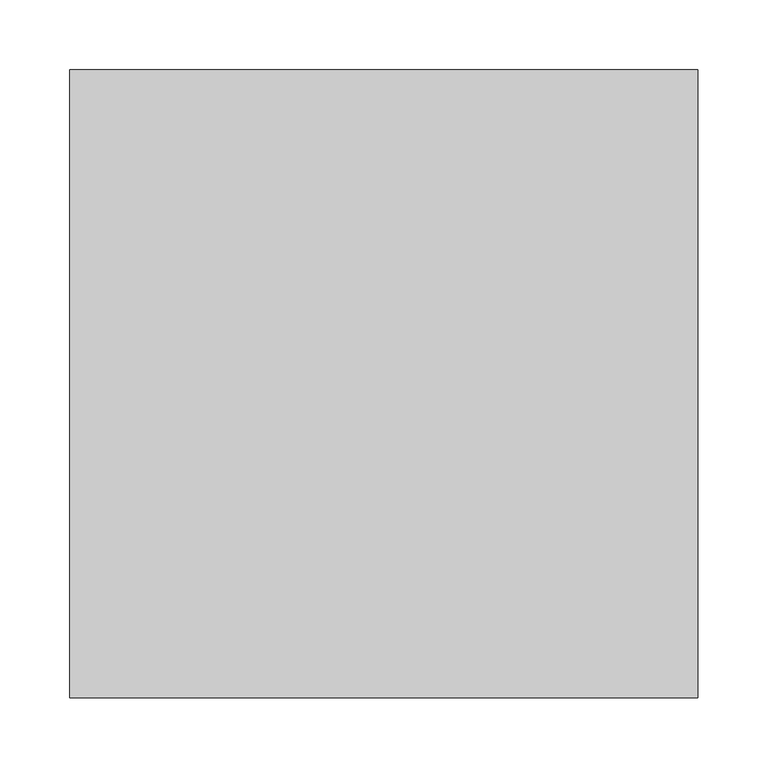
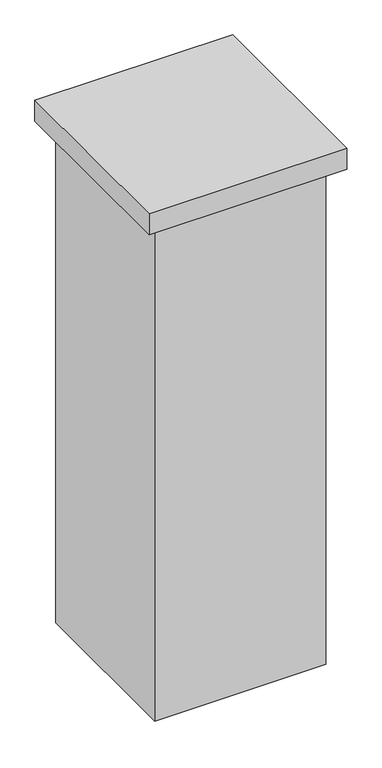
"""IFC4 building model written with IfcOpenShell, lengths in millimetres: proxy geometry, Busto de Artigas : Busto de Artigas."""

import ifcopenshell
import ifcopenshell.guid

model = None  # the IFC model being written
_history = None  # IfcOwnerHistory: only IFC2X3 demands one
_inside = {}  # id of a spatial element -> (the spatial element, [elements in it])
_under = {}  # id of a project, library or spatial element -> (it, [spatial elements below it])
_declared = {}  # id of a project -> (the project, [libraries it declares])
_typed = {}  # id of a type object -> (the type object, [elements of that type])
_made_of = {}  # id of a material, layer set ... -> (it, [elements and type objects made of it])


def new_model(schema):
    """Start an empty IFC model of exactly this schema.

    Asked for "IFC4X3", IfcOpenShell would pick the latest addendum, in which some entities
    have other attributes; the version numbers below select the first issue.
    IFC2X3 requires an IfcOwnerHistory on every rooted entity: one is made here for all.
    """
    global model, _history
    if schema == "IFC4X3":
        model = ifcopenshell.file(schema_version=(4, 3, 0, 0))
    else:
        model = ifcopenshell.file(schema=schema)
    _inside.clear()
    _under.clear()
    _declared.clear()
    _typed.clear()
    _made_of.clear()
    _history = None
    if model.schema == "IFC2X3":
        org = make("IfcOrganization", Name="unknown")
        user = make(
            "IfcPersonAndOrganization",
            ThePerson=make("IfcPerson", FamilyName="unknown"),
            TheOrganization=org,
        )
        app = make(
            "IfcApplication",
            ApplicationDeveloper=org,
            Version="unknown",
            ApplicationFullName="unknown",
            ApplicationIdentifier="unknown",
        )
        _history = make(
            "IfcOwnerHistory",
            OwningUser=user,
            OwningApplication=app,
            ChangeAction="ADDED",
            CreationDate=0,
        )
    return model


def make(cls, **values):
    """One entity of the class cls with the attributes given. An attribute that is None is left unset."""
    return model.create_entity(
        cls, **{name: value for name, value in values.items() if value is not None}
    )


def rooted(cls, **values):
    """An entity with a GlobalId (a new one), such as an element, a storey or a relation."""
    return make(cls, GlobalId=ifcopenshell.guid.new(), OwnerHistory=_history, **values)


def si_unit(unit_type, name, prefix=None):
    """IfcSIUnit, for example si_unit("LENGTHUNIT", "METRE", prefix="MILLI")."""
    return make("IfcSIUnit", UnitType=unit_type, Prefix=prefix, Name=name)


def assignment(units):
    """IfcUnitAssignment: the units of a project."""
    return None if units is None else make("IfcUnitAssignment", Units=units)


def point(xyz):
    """IfcCartesianPoint."""
    return None if xyz is None else make("IfcCartesianPoint", Coordinates=xyz)


def direction(xyz):
    """IfcDirection."""
    return None if xyz is None else make("IfcDirection", DirectionRatios=xyz)


def frame(location, z_axis=None, x_axis=None):
    """IfcAxis2Placement3D, a coordinate frame: its origin and axes. An axis left out is left unset."""
    return make(
        "IfcAxis2Placement3D",
        Location=point(location),
        Axis=direction(z_axis),
        RefDirection=direction(x_axis),
    )


def origin():
    """The frame at (0, 0, 0) with its axes left unset."""
    return frame((0.0, 0.0, 0.0))


def place(relative_to, where):
    """IfcLocalPlacement: puts the frame where relative to a parent placement (None: the world)."""
    return make(
        "IfcLocalPlacement", PlacementRelTo=relative_to, RelativePlacement=where
    )


def context(
    kind, dimensions, precision=None, world=None, true_north=None, identifier=None
):
    """IfcGeometricRepresentationContext, for example the 3D "Model" context."""
    return make(
        "IfcGeometricRepresentationContext",
        ContextIdentifier=identifier,
        ContextType=kind,
        CoordinateSpaceDimension=dimensions,
        Precision=precision,
        WorldCoordinateSystem=world,
        TrueNorth=true_north,
    )


def project(units=None, contexts=None):
    """IfcProject with its units and contexts."""
    return rooted(
        "IfcProject",
        Name="project",
        RepresentationContexts=contexts,
        UnitsInContext=assignment(units),
    )


def spatial(cls, under=None, at=None, **own):
    """A site, building, storey or space (cls), placed at a placement, below another one or the project."""
    s = rooted(cls, ObjectPlacement=at, **own)
    if under is not None:
        _under.setdefault(under.id(), (under, []))[1].append(s)
    return s


def polyline(points):
    """IfcPolyline through the points."""
    return make("IfcPolyline", Points=[point(p) for p in points])


def outline(outer, holes=None, kind="AREA"):
    """IfcArbitraryClosedProfileDef: a profile drawn as a closed curve; with holes, ...WithVoids."""
    if holes is None:
        return make("IfcArbitraryClosedProfileDef", ProfileType=kind, OuterCurve=outer)
    return make(
        "IfcArbitraryProfileDefWithVoids",
        ProfileType=kind,
        OuterCurve=outer,
        InnerCurves=holes,
    )


def extrude(swept, where, along, depth):
    """IfcExtrudedAreaSolid: the profile swept, set in the frame where, extruded along a direction by depth."""
    return make(
        "IfcExtrudedAreaSolid",
        SweptArea=swept,
        Position=where,
        ExtrudedDirection=direction(along),
        Depth=depth,
    )


def shape(context_of_items, identifier, shape_type, items):
    """IfcShapeRepresentation: the items that make up one representation, for example the "Body"."""
    return make(
        "IfcShapeRepresentation",
        ContextOfItems=context_of_items,
        RepresentationIdentifier=identifier,
        RepresentationType=shape_type,
        Items=items,
    )


def source(mapping_origin, context_of_items, identifier, shape_type, items):
    """IfcRepresentationMap: a shape defined once, which mapped items show again and again."""
    return make(
        "IfcRepresentationMap",
        MappingOrigin=mapping_origin,
        MappedRepresentation=shape(context_of_items, identifier, shape_type, items),
    )


def transform(
    local_origin,
    x_axis=None,
    y_axis=None,
    z_axis=None,
    scale=None,
    scale2=None,
    scale3=None,
    uniform=True,
):
    """IfcCartesianTransformationOperator3D, or its non-uniform kind. x_axis, y_axis, z_axis: its Axis1, 2, 3."""
    if uniform:
        return make(
            "IfcCartesianTransformationOperator3D",
            Axis1=direction(x_axis),
            Axis2=direction(y_axis),
            LocalOrigin=point(local_origin),
            Scale=scale,
            Axis3=direction(z_axis),
        )
    return make(
        "IfcCartesianTransformationOperator3DnonUniform",
        Axis1=direction(x_axis),
        Axis2=direction(y_axis),
        LocalOrigin=point(local_origin),
        Scale=scale,
        Axis3=direction(z_axis),
        Scale2=scale2,
        Scale3=scale3,
    )


def mapped(mapping_source, mapping_target):
    """IfcMappedItem: shows the shape of a source again, moved by a transform."""
    return make(
        "IfcMappedItem", MappingSource=mapping_source, MappingTarget=mapping_target
    )


def made_of(thing, what):
    """Note that an element or type object is made of a material, layer set ...; save() writes the relation."""
    if what is not None:
        _made_of.setdefault(what.id(), (what, []))[1].append(thing)
    return thing


def element(
    cls,
    number,
    at=None,
    inside=None,
    cuts=None,
    type_object=None,
    material=None,
    context=None,
    identifier="Body",
    shape_type=None,
    held_by="IfcProductDefinitionShape",
    body=None,
    shapes=None,
    **own,
):
    """One element of the class cls, such as IfcWall. Its Tag is "e" and its number.

    at: its placement. inside: the storey or other place that contains it. cuts: it is an
    opening in that element (IfcRelVoidsElement). A single representation is given by context,
    identifier, shape_type and body (its items); several are given by shapes. held_by: the class
    of the entity that holds the representations. save() writes the other relations.
    """
    e = rooted(cls, Tag="e%d" % number, ObjectPlacement=at, **own)
    if body is not None:
        shapes = [shape(context, identifier, shape_type, body)]
    if shapes is not None:
        e.Representation = make(held_by, Representations=shapes)
    if inside is not None:
        _inside.setdefault(inside.id(), (inside, []))[1].append(e)
    if cuts is not None:
        rooted(
            "IfcRelVoidsElement", RelatingBuildingElement=cuts, RelatedOpeningElement=e
        )
    if type_object is not None:
        _typed.setdefault(type_object.id(), (type_object, []))[1].append(e)
    return made_of(e, material)


def aggregate(whole, parts):
    """IfcRelAggregates: a whole, such as a stair, and the parts it consists of."""
    return rooted("IfcRelAggregates", RelatingObject=whole, RelatedObjects=parts)


def save(model, path):
    """Write the relations noted so far, then the file.

    IfcRelAggregates (storeys below a building ...), IfcRelContainedInSpatialStructure (elements
    in a storey), IfcRelDefinesByType, IfcRelAssociatesMaterial and IfcRelDeclares: one each for
    every whole, place, type object, material and project.
    """
    for whole, parts in _under.values():
        aggregate(whole, parts)
    for where, things in _inside.values():
        rooted(
            "IfcRelContainedInSpatialStructure",
            RelatedElements=things,
            RelatingStructure=where,
        )
    for kind, things in _typed.values():
        rooted("IfcRelDefinesByType", RelatedObjects=things, RelatingType=kind)
    for what, things in _made_of.values():
        rooted("IfcRelAssociatesMaterial", RelatedObjects=things, RelatingMaterial=what)
    for by, libraries in _declared.values():
        rooted("IfcRelDeclares", RelatingContext=by, RelatedDefinitions=libraries)
    model.write(path)


def generic_models_beb3b24c(model_context):
    return source(origin(), model_context, "Body", "SweptSolid", [
        extrude(outline(polyline([(-12610.1873738, 2628.6072273), (-12610.1873738, 2178.6072273), (-13060.1873738, 2178.6072273), (-13060.1873738, 2628.6072273), (-12610.1873738, 2628.6072273)])), frame((0.0, 0.0, 1050.0), z_axis=(0.0, 0.0, 1.0), x_axis=(1.0, 0.0, 0.0)), (0.0, 0.0, 1.0), 50.0),
        extrude(outline(polyline([(-12640.1873738, 2598.6072273), (-12640.1873738, 2208.6072273), (-13030.1873738, 2208.6072273), (-13030.1873738, 2598.6072273), (-12640.1873738, 2598.6072273)])), frame((0.0, 0.0, -150.0), z_axis=(0.0, 0.0, 1.0), x_axis=(1.0, 0.0, 0.0)), (0.0, 0.0, 1.0), 1200.0),
    ])


if __name__ == "__main__":
    model = new_model("IFC4")
    model_context = context("Model", 3, world=origin())
    ifc_project = project(units=[si_unit("LENGTHUNIT", "METRE", prefix="MILLI")], contexts=[model_context])
    site = spatial("IfcSite", under=ifc_project)
    building = spatial("IfcBuilding", under=site)
    placement = place(None, origin())
    generic_models_shape = generic_models_beb3b24c(model_context)
    element("IfcBuildingElementProxy", 1, Name="Busto de Artigas : Busto de Artigas", ObjectType="Busto de Artigas : Busto de Artigas", at=placement, inside=building, context=model_context, shape_type="MappedRepresentation", body=[
        mapped(generic_models_shape, transform((0.0, 0.0, 0.0), x_axis=(1.0, 0.0, 0.0), y_axis=(0.0, 1.0, 0.0), z_axis=(0.0, 0.0, 1.0))),
    ])
    save(model, "model.ifc")
